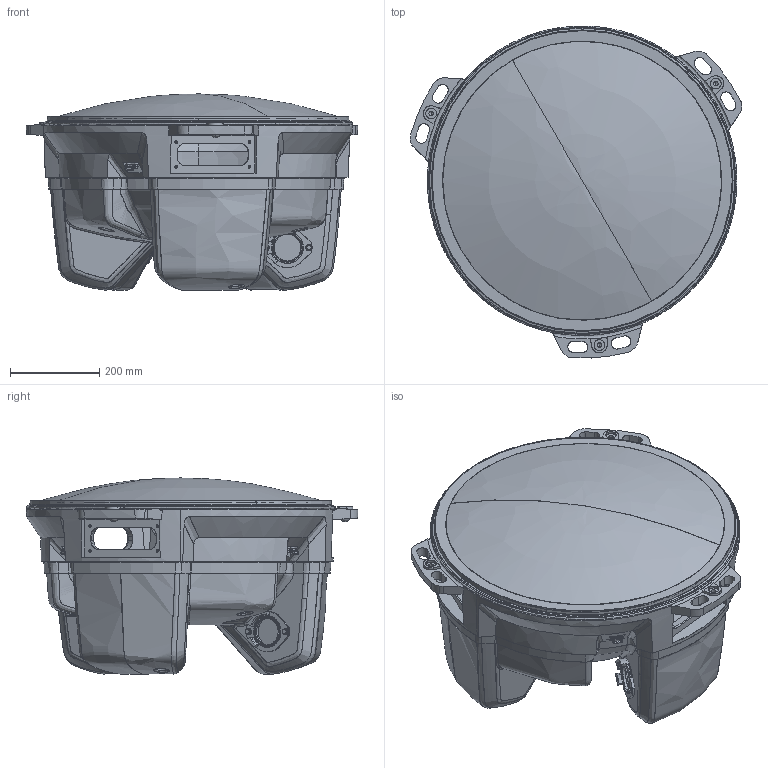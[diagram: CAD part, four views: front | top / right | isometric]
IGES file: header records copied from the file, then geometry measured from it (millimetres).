
Start section: SolidWorks IGES file using analytic representation for surfaces
Global section: file name: C:\Users\SELUHAA\Desktop\Work items\545792\IGES\IRB360_X-1130-WDS-4D_rev03_IGES_J\IRB360_X-1130-WDS-4D_rev03_BASE_CAD.IGS; native system: SolidWorks 2022; preprocessor: SolidWorks 2022; author: SELUHAA; date: 240115.130607; units: millimetre
Bounding box: 742.52 x 743.31 x 439 mm (x, y, z)
Surface area: 3651644.8 mm2 (no closed solid volume)
Topology: 0 solids, 0 shells, 2312 faces, 33948 edges, 33910 vertices
Faces by surface type: bspline 1280, revolution 1032
